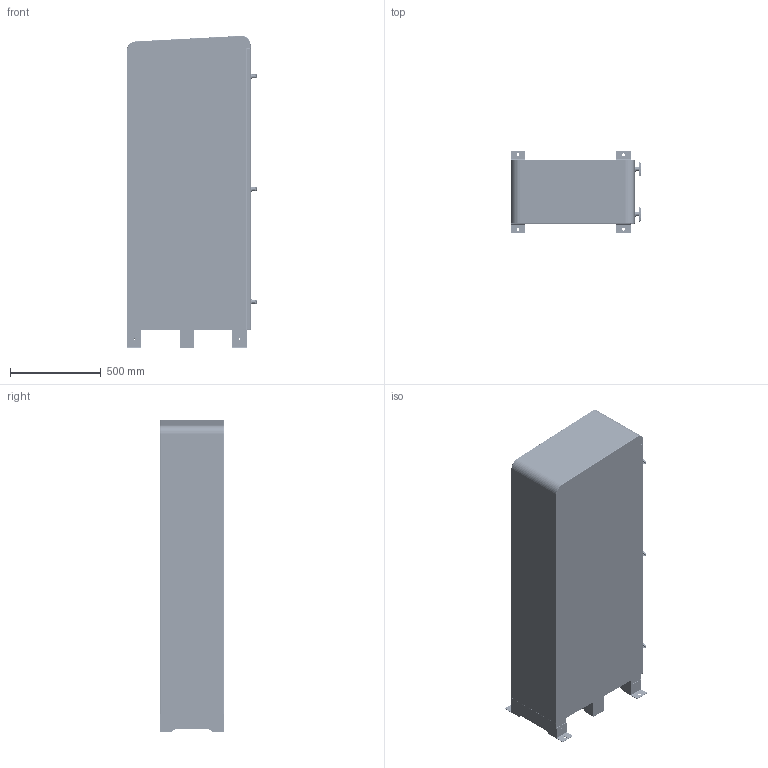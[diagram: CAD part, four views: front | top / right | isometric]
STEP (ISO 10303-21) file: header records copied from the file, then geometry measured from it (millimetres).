
FILE_DESCRIPTION((''),'2;1');
FILE_NAME('810-0094-ELEMENT_ASM','2023-11-24T11:52:30',('Administrator'),(''),'CREO PARAMETRIC BY PTC INC, 2019224','CREO PARAMETRIC BY PTC INC, 2019224','');
FILE_SCHEMA(('AUTOMOTIVE_DESIGN { 1 0 10303 214 1 1 1 1 }'));
Products named in the file (21): CASE-00; PEM_SL-M6-1_ZI--S; ZHIJIA-05_ASM; PEM_NUT_M5; ZHIJIA-30; ZHIJIA-37; PEM_SL-M8-1_ZI--S; LOGO-1; CASE-00_ASM; GAIBAN-01; ZHIJIA-MIANGAI; MIFENGJIAOTIAO; M5-BOLT; MENSUO-01; LOGO-2; GAIBAN-01_ASM; M6X14_ASM; M3X11-0001; M8X12_ASM; ZHIJIA-38; 810-0094-ELEMENT_ASM
Assembly tree (51 placements, depth 4):
  810-0094-ELEMENT_ASM
    CASE-00_ASM
      CASE-00
      ZHIJIA-05_ASM
        PEM_SL-M6-1_ZI--S  x4
      PEM_NUT_M5  x8
      ZHIJIA-30  x2
      ZHIJIA-37
      PEM_SL-M8-1_ZI--S  x4
      LOGO-1
    GAIBAN-01_ASM
      GAIBAN-01
      ZHIJIA-MIANGAI  x2
      MIFENGJIAOTIAO
      M5-BOLT  x6
      MENSUO-01  x6
      LOGO-2
    M6X14_ASM
    M3X11-0001  x3
    M8X12_ASM  x2
    ZHIJIA-38  x4
Bounding box: 716 x 450 x 1717.88 mm (x, y, z)
Volume: 8781771.2 mm3; surface area: 8859564.2 mm2
Topology: 89 solids, 89 shells, 6489 faces, 19340 edges, 14870 vertices
Faces by surface type: cylinder 3047, plane 2474, extrusion 406, cone 304, sphere 168, bspline 70, torus 20
Entity records: 225630 total; most frequent: CARTESIAN_POINT 39355, DIRECTION 25737, ORIENTED_EDGE 24014, PRESENTATION_STYLE_ASSIGNMENT 15861, STYLED_ITEM 15861, CURVE_STYLE 12348, EDGE_CURVE 12007, AXIS2_PLACEMENT_3D 9157
